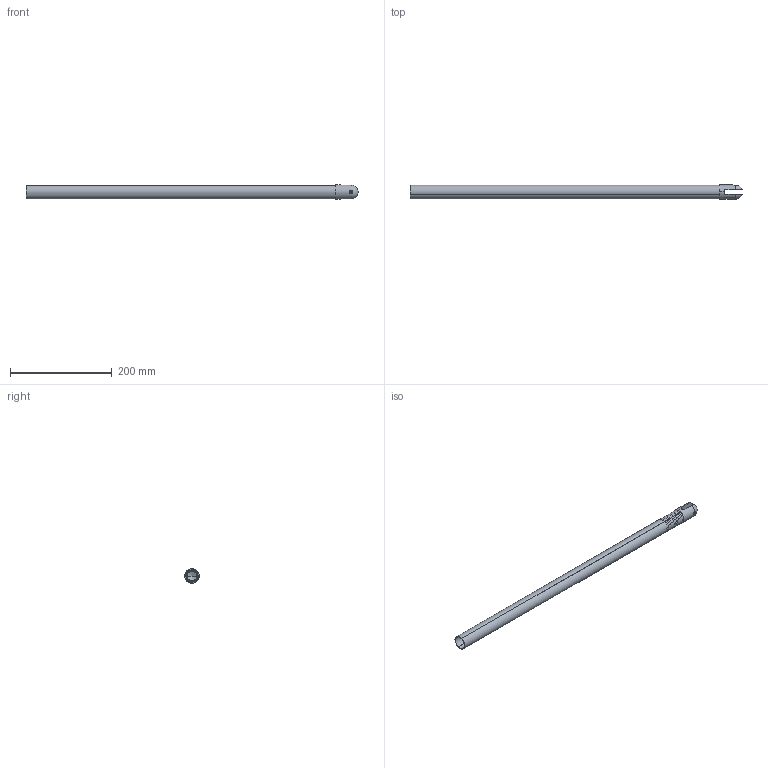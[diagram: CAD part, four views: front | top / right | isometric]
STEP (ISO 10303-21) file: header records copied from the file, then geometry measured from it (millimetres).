
FILE_DESCRIPTION (( 'STEP AP214' ), '1' );
FILE_NAME ('Female Clevis Connector.STEP', '2013-08-19T13:03:20', ( 'ydmin' ), ( 'Microsoft' ), 'SwSTEP 2.0', 'SolidWorks 2013', '' );
FILE_SCHEMA (( 'AUTOMOTIVE_DESIGN' ));
Length unit declared in the file: inch
Products named in the file (4): 6.000 Inch Tube; 91990A255 (1)_91990A255; DRP-002-0510-00_FEMALE YOKE TUBE INSERT; Female Clevis Connector
Assembly tree (3 placements, depth 2):
  Female Clevis Connector
    DRP-002-0510-00_FEMALE YOKE TUBE INSERT
    91990A255 (1)_91990A255
    6.000 Inch Tube
Bounding box: 653.96 x 28.57 x 28.57 mm (x, y, z)
Volume: 75329.2 mm3; surface area: 115903.7 mm2
Topology: 3 solids, 3 shells, 244 faces, 713 edges, 473 vertices
Faces by surface type: cylinder 113, plane 111, torus 8, bspline 8, cone 2, sphere 2
Entity records: 9976 total; most frequent: CARTESIAN_POINT 3166, DIRECTION 1428, ORIENTED_EDGE 1422, EDGE_CURVE 711, AXIS2_PLACEMENT_3D 501, VERTEX_POINT 473, VECTOR 426, LINE 426
